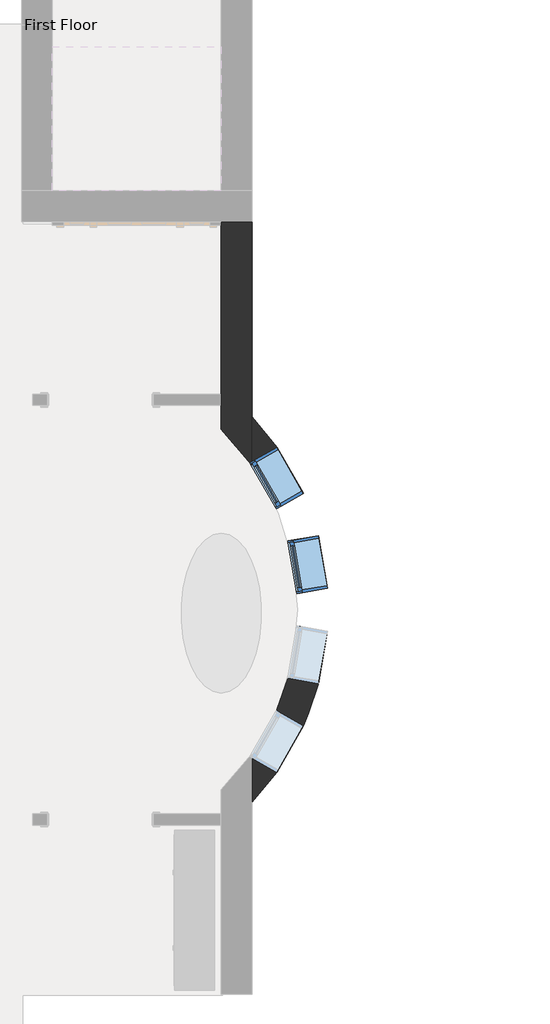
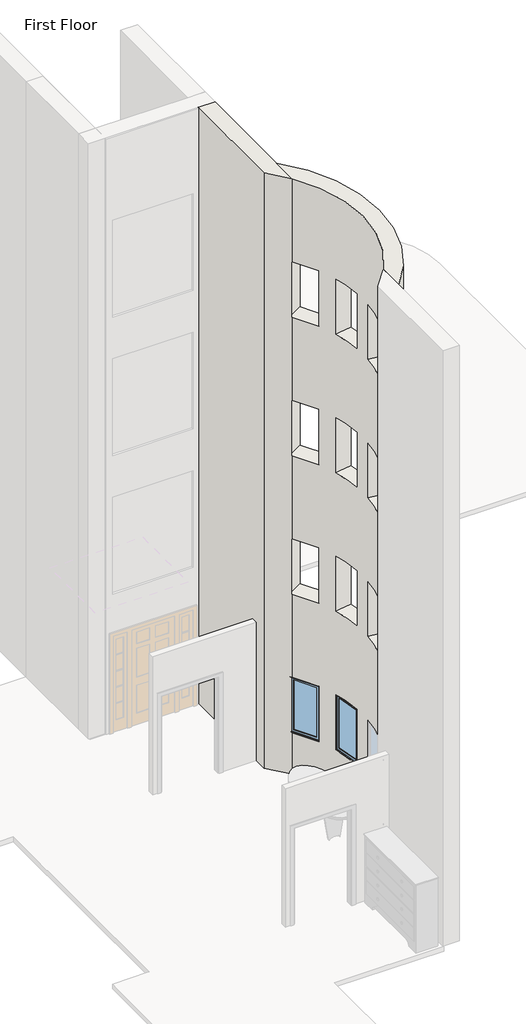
# One storey, part 9 of 21: 2 walls, 2 windows.
"""IFC4 building model written with IfcOpenShell, lengths in millimetres."""

from ifc_helpers import new_model, si_unit, frame, origin, place, context, project, spatial, polyline, circle_curve, transform, mapped, element, save
from ifc_brep_helpers import plane_surface, cylinder_surface, revolved_surface, advanced_brep
from components import window_ed80354a

model = new_model("IFC4")

# Units and contexts
model_context = context("Model", 3, world=origin())
ifc_project = project(units=[si_unit("LENGTHUNIT", "METRE", prefix="MILLI")], contexts=[model_context])

# Site, building, storey
site = spatial("IfcSite", under=ifc_project)
building = spatial("IfcBuilding", under=site)
storey = spatial("IfcBuildingStorey", under=building, Name="First Floor", Elevation=0.0)

# Walls
placement = place(None, origin())
element("IfcWall", 1, ObjectType="Exterior - Brick on Mtl. Stud", at=placement, inside=storey, context=model_context, shape_type="AdvancedBrep", body=[
    advanced_brep(
    [(-24001.3839563, -550.3808133, 0.0), (-24001.3839563, -591.6558133, 0.0), (-24001.3839563, -2525.2308133, 0.0), (-24001.3839563, -2652.2308133, 0.0), (-24001.3839563, -2927.0589656, 0.0), (-24001.3839563, -2927.0589656, 13106.4), (-24001.3839563, -591.6558133, 13106.4), (-24001.3839563, -550.3808133, 13106.4), (-23648.9589563, -3340.9526635, 0.0), (-23648.9589563, -2783.0580793, 0.0), (-23648.9589563, -550.3808133, 0.0), (-23648.9589563, -550.3808133, 13106.4), (-23648.9589563, -2783.0580793, 13106.4), (-23648.9589563, -3340.9526635, 13106.4), (-23648.9589563, -3340.9526635, 11277.6), (-23648.9589563, -3291.6644156, 11277.6), (-23648.9589563, -3291.6644156, 10058.4), (-23648.9589563, -3340.9526635, 10058.4), (-23648.9589563, -3340.9526635, 8229.6), (-23648.9589563, -3291.6644156, 8229.6), (-23648.9589563, -3291.6644156, 7010.4), (-23648.9589563, -3340.9526635, 7010.4), (-23648.9589563, -3340.9526635, 5181.6), (-23648.9589563, -3291.6644156, 5181.6), (-23648.9589563, -3291.6644156, 3962.4), (-23648.9589563, -3340.9526635, 3962.4), (-23648.9589563, -3340.9526635, 2133.6), (-23648.9589563, -3291.6644156, 2133.6), (-23648.9589563, -3291.6644156, 914.4), (-23648.9589563, -3340.9526635, 914.4), (-23654.515008, -3333.0411617, 914.4), (-23654.515008, -3333.0411617, 2133.6), (-23654.515008, -3333.0411617, 3962.4), (-23654.515008, -3333.0411617, 5181.6), (-23654.515008, -3333.0411617, 7010.4), (-23654.515008, -3333.0411617, 8229.6), (-23654.515008, -3333.0411617, 10058.4), (-23654.515008, -3333.0411617, 11277.6), (-23670.9721676, -3304.2451473, 914.4), (-23670.9721676, -3304.2451473, 2133.6), (-23670.9721676, -3304.2451473, 10058.4), (-23670.9721676, -3304.2451473, 11277.6), (-23670.9721676, -3304.2451473, 3962.4), (-23670.9721676, -3304.2451473, 5181.6), (-23670.9721676, -3304.2451473, 7010.4), (-23670.9721676, -3304.2451473, 8229.6)],
    [
        (0, 1),
        (1, 2),
        (2, 3),
        (3, 4),
        (4, 5),
        (5, 6),
        (6, 7),
        (7, 0),
        (8, 9),
        (9, 10),
        (10, 11),
        (11, 12),
        (12, 13),
        (13, 14),
        (14, 15),
        (15, 16),
        (16, 17),
        (17, 18),
        (18, 19),
        (19, 20),
        (20, 21),
        (21, 22),
        (22, 23),
        (23, 24),
        (24, 25),
        (25, 26),
        (26, 27),
        (27, 28),
        (28, 29),
        (29, 8),
        (0, 10),
        (8, 4, circle_curve(frame((-26001.8788413, -4987.4433133, 0.0), z_axis=(0.0, 0.0, 1.0), x_axis=(0.0, 1.0, 0.0)), 2871.7875)),
        (5, 13, circle_curve(frame((-26001.8788413, -4987.4433133, 13106.4), z_axis=(0.0, 0.0, -1.0), x_axis=(0.0, 1.0, 0.0)), 2871.7875)),
        (11, 7),
        (29, 30, circle_curve(frame((-26001.8788413, -4987.4433133, 914.4), z_axis=(0.0, 0.0, 1.0), x_axis=(0.0, 1.0, 0.0)), 2871.7875)),
        (30, 31),
        (31, 26, circle_curve(frame((-26001.8788413, -4987.4433133, 2133.6), z_axis=(0.0, 0.0, -1.0), x_axis=(0.0, 1.0, 0.0)), 2871.7875)),
        (25, 32, circle_curve(frame((-26001.8788413, -4987.4433133, 3962.4), z_axis=(0.0, 0.0, 1.0), x_axis=(0.0, 1.0, 0.0)), 2871.7875)),
        (32, 33),
        (33, 22, circle_curve(frame((-26001.8788413, -4987.4433133, 5181.6), z_axis=(0.0, 0.0, -1.0), x_axis=(0.0, 1.0, 0.0)), 2871.7875)),
        (21, 34, circle_curve(frame((-26001.8788413, -4987.4433133, 7010.4), z_axis=(0.0, 0.0, 1.0), x_axis=(0.0, 1.0, 0.0)), 2871.7875)),
        (34, 35),
        (35, 18, circle_curve(frame((-26001.8788413, -4987.4433133, 8229.6), z_axis=(0.0, 0.0, -1.0), x_axis=(0.0, 1.0, 0.0)), 2871.7875)),
        (17, 36, circle_curve(frame((-26001.8788413, -4987.4433133, 10058.4), z_axis=(0.0, 0.0, 1.0), x_axis=(0.0, 1.0, 0.0)), 2871.7875)),
        (36, 37),
        (37, 14, circle_curve(frame((-26001.8788413, -4987.4433133, 11277.6), z_axis=(0.0, 0.0, -1.0), x_axis=(0.0, 1.0, 0.0)), 2871.7875)),
        (38, 39),
        (39, 31),
        (30, 38),
        (28, 38),
        (27, 39),
        (40, 41),
        (41, 37),
        (36, 40),
        (16, 40),
        (15, 41),
        (42, 43),
        (43, 33),
        (32, 42),
        (24, 42),
        (23, 43),
        (44, 45),
        (45, 35),
        (34, 44),
        (20, 44),
        (19, 45),
    ],
    [
        plane_surface(frame((-24001.3839563, -415.4433133, 0.0), z_axis=(-1.0, 0.0, 0.0), x_axis=(0.0, -1.0, 0.0))),
        plane_surface(frame((-23648.9589563, -415.4433133, 0.0), z_axis=(1.0, 0.0, 0.0), x_axis=(0.0, 1.0, 0.0))),
        plane_surface(frame((-24001.3839563, -394.8058133, 0.0), z_axis=(0.0, 0.0, -1.0), x_axis=(1.0, 0.0, 0.0))),
        plane_surface(frame((-24001.3839563, -2853.8433133, 13106.4), z_axis=(0.0, 0.0, 1.0), x_axis=(1.0, 0.0, 0.0))),
        revolved_surface(polyline([(-26001.8788413, -2115.6558133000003, 0.0), (-26001.8788413, -2115.6558133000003, 13106.4)]), (-26001.8788413, -4987.4433133, 0.0), (0.0, 0.0, -1.0)),
        plane_surface(frame((-26111.1714563, -550.3808133, 0.0), z_axis=(0.0, 1.0, 0.0), x_axis=(1.0, 0.0, 0.0))),
        plane_surface(frame((-23368.4940834, -3833.5080013, 2133.6), z_axis=(0.8682133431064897, 0.4961910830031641, 0.0), x_axis=(0.0, 0.0, 1.0))),
        plane_surface(frame((-23063.8858198, -3659.4218675, 914.4), z_axis=(0.0, 0.0, 1.0), x_axis=(-0.8682133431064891, -0.49619108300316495, 0.0))),
        plane_surface(frame((-23366.363904, -3130.1590135, 914.4), z_axis=(0.49619108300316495, -0.8682133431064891, 0.0), x_axis=(-0.8682133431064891, -0.49619108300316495, 0.0))),
        plane_surface(frame((-23366.363904, -3130.1590135, 2133.6), z_axis=(0.0, 0.0, -1.0), x_axis=(-0.8682133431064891, -0.49619108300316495, 0.0))),
        plane_surface(frame((-23368.4940834, -3833.5080013, 11277.6), z_axis=(0.8682133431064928, 0.4961910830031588, 0.0), x_axis=(0.0, 0.0, 1.0))),
        plane_surface(frame((-23063.8858198, -3659.4218675, 10058.4), z_axis=(0.0, 0.0, 1.0), x_axis=(-0.8682133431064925, -0.4961910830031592, 0.0))),
        plane_surface(frame((-23366.363904, -3130.1590135, 10058.4), z_axis=(0.49619108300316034, -0.8682133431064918, 0.0), x_axis=(-0.8682133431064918, -0.49619108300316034, 0.0))),
        plane_surface(frame((-23366.363904, -3130.1590135, 11277.6), z_axis=(0.0, 0.0, -1.0), x_axis=(-0.8682133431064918, -0.49619108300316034, 0.0))),
        plane_surface(frame((-23368.4940834, -3833.5080013, 5181.6), z_axis=(0.8682133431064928, 0.4961910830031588, 0.0), x_axis=(0.0, 0.0, 1.0))),
        plane_surface(frame((-23063.8858198, -3659.4218675, 3962.4), z_axis=(0.0, 0.0, 1.0), x_axis=(-0.8682133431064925, -0.4961910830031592, 0.0))),
        plane_surface(frame((-23366.363904, -3130.1590135, 3962.4), z_axis=(0.49619108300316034, -0.8682133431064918, 0.0), x_axis=(-0.8682133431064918, -0.49619108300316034, 0.0))),
        plane_surface(frame((-23366.363904, -3130.1590135, 5181.6), z_axis=(0.0, 0.0, -1.0), x_axis=(-0.8682133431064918, -0.49619108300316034, 0.0))),
        plane_surface(frame((-23368.4940834, -3833.5080013, 8229.6), z_axis=(0.8682133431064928, 0.4961910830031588, 0.0), x_axis=(0.0, 0.0, 1.0))),
        plane_surface(frame((-23063.8858198, -3659.4218675, 7010.4), z_axis=(0.0, 0.0, 1.0), x_axis=(-0.8682133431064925, -0.4961910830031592, 0.0))),
        plane_surface(frame((-23366.363904, -3130.1590135, 7010.4), z_axis=(0.49619108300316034, -0.8682133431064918, 0.0), x_axis=(-0.8682133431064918, -0.49619108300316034, 0.0))),
        plane_surface(frame((-23366.363904, -3130.1590135, 8229.6), z_axis=(0.0, 0.0, -1.0), x_axis=(-0.8682133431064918, -0.49619108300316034, 0.0))),
    ],
    [
        (0, [[1, 2, 3, 4, 5, 6, 7, 8]]),
        (1, [[9, 10, 11, 12, 13, 14, 15, 16, 17, 18, 19, 20, 21, 22, 23, 24, 25, 26, 27, 28, 29, 30]]),
        (2, [[-4, -3, -2, -1, 31, -10, -9, 32]]),
        (3, [[-7, -6, 33, -13, -12, 34]]),
        (4, [[-32, -30, 35, 36, 37, -26, 38, 39, 40, -22, 41, 42, 43, -18, 44, 45, 46, -14, -33, -5]]),
        (5, [[-8, -34, -11, -31]]),
        (6, [[47, 48, -36, 49]]),
        (7, [[50, -49, -35, -29]]),
        (8, [[-47, -50, -28, 51]]),
        (9, [[-51, -27, -37, -48]]),
        (10, [[52, 53, -45, 54]]),
        (11, [[55, -54, -44, -17]]),
        (12, [[-52, -55, -16, 56]]),
        (13, [[-56, -15, -46, -53]]),
        (14, [[57, 58, -39, 59]]),
        (15, [[60, -59, -38, -25]]),
        (16, [[-57, -60, -24, 61]]),
        (17, [[-61, -23, -40, -58]]),
        (18, [[62, 63, -42, 64]]),
        (19, [[65, -64, -41, -21]]),
        (20, [[-62, -65, -20, 66]]),
        (21, [[-66, -19, -43, -63]]),
    ],
),
])
element("IfcWall", 2, ObjectType="Exterior - Brick on Mtl. Stud", at=placement, inside=storey, context=model_context, shape_type="AdvancedBrep", body=[
    advanced_brep(
    [(-23648.9589563, -3340.9526635, 13106.4), (-23648.9589563, -6633.9339631, 13106.4), (-23648.9589563, -7191.8285473, 13106.4), (-23648.9589563, -2783.0580793, 13106.4), (-23648.9589563, -6633.9339631, 0.0), (-23648.9589563, -3340.9526635, 0.0), (-23648.9589563, -2783.0580793, 0.0), (-23648.9589563, -7191.8285473, 0.0), (-23648.9589563, -3340.9526635, 11277.6), (-23371.3988057, -3835.168074, 11277.6), (-23371.3988057, -3835.168074, 10058.4), (-23648.9589563, -3340.9526635, 10058.4), (-23648.9589563, -3340.9526635, 8229.6), (-23371.3988057, -3835.168074, 8229.6), (-23371.3988057, -3835.168074, 7010.4), (-23648.9589563, -3340.9526635, 7010.4), (-23648.9589563, -3340.9526635, 5181.6), (-23371.3988057, -3835.168074, 5181.6), (-23371.3988057, -3835.168074, 3962.4), (-23648.9589563, -3340.9526635, 3962.4), (-23648.9589563, -3340.9526635, 2133.6), (-23371.3988057, -3835.168074, 2133.6), (-23371.3988057, -3835.168074, 914.4), (-23648.9589563, -3340.9526635, 914.4), (-23648.9589563, -6633.9339631, 914.4), (-23371.3988057, -6139.7185526, 914.4), (-23371.3988057, -6139.7185526, 2133.6), (-23648.9589563, -6633.9339631, 2133.6), (-23648.9589563, -6633.9339631, 3962.4), (-23371.3988057, -6139.7185526, 3962.4), (-23371.3988057, -6139.7185526, 5181.6), (-23648.9589563, -6633.9339631, 5181.6), (-23648.9589563, -6633.9339631, 7010.4), (-23371.3988057, -6139.7185526, 7010.4), (-23371.3988057, -6139.7185526, 8229.6), (-23648.9589563, -6633.9339631, 8229.6), (-23648.9589563, -6633.9339631, 10058.4), (-23371.3988057, -6139.7185526, 10058.4), (-23371.3988057, -6139.7185526, 11277.6), (-23648.9589563, -6633.9339631, 11277.6), (-23136.0115527, -4803.1388671, 8229.6), (-23136.0115527, -4803.1388671, 7010.4), (-23239.4803586, -4202.3840368, 7010.4), (-23239.4803586, -4202.3840368, 8229.6), (-23136.0115527, -5171.7477595, 8229.6), (-23239.4803586, -5772.5025899, 8229.6), (-23239.4803586, -5772.5025899, 7010.4), (-23136.0115527, -5171.7477595, 7010.4), (-23136.0115527, -4803.1388671, 5181.6), (-23136.0115527, -4803.1388671, 3962.4), (-23239.4803586, -4202.3840368, 3962.4), (-23239.4803586, -4202.3840368, 5181.6), (-23136.0115527, -5171.7477595, 5181.6), (-23239.4803586, -5772.5025899, 5181.6), (-23239.4803586, -5772.5025899, 3962.4), (-23136.0115527, -5171.7477595, 3962.4), (-23136.0115527, -4803.1388671, 11277.6), (-23136.0115527, -4803.1388671, 10058.4), (-23239.4803586, -4202.3840368, 10058.4), (-23239.4803586, -4202.3840368, 11277.6), (-23136.0115527, -5171.7477595, 11277.6), (-23239.4803586, -5772.5025899, 11277.6), (-23239.4803586, -5772.5025899, 10058.4), (-23136.0115527, -5171.7477595, 10058.4), (-23136.0115527, -4803.1388671, 2133.6), (-23136.0115527, -4803.1388671, 914.4), (-23239.4803586, -4202.3840368, 914.4), (-23239.4803586, -4202.3840368, 2133.6), (-23136.0115527, -5171.7477595, 2133.6), (-23239.4803586, -5772.5025899, 2133.6), (-23239.4803586, -5772.5025899, 914.4), (-23136.0115527, -5171.7477595, 914.4), (-23063.8719855, -6315.4726656, 2133.6), (-23063.8719855, -6315.4726656, 914.4), (-23366.3500697, -6844.7355195, 914.4), (-23366.3500697, -6844.7355195, 2133.6), (-23063.8719855, -3659.4139611, 914.4), (-23063.8719855, -3659.4139611, 2133.6), (-23366.3500697, -3130.1511071, 2133.6), (-23366.3500697, -3130.1511071, 914.4), (-23063.8719855, -6315.4726656, 11277.6), (-23063.8719855, -6315.4726656, 10058.4), (-23366.3500697, -6844.7355195, 10058.4), (-23366.3500697, -6844.7355195, 11277.6), (-23063.8719855, -3659.4139611, 10058.4), (-23063.8719855, -3659.4139611, 11277.6), (-23366.3500697, -3130.1511071, 11277.6), (-23366.3500697, -3130.1511071, 10058.4), (-23063.8719855, -6315.4726656, 5181.6), (-23063.8719855, -6315.4726656, 3962.4), (-23366.3500697, -6844.7355195, 3962.4), (-23366.3500697, -6844.7355195, 5181.6), (-23063.8719855, -3659.4139611, 3962.4), (-23063.8719855, -3659.4139611, 5181.6), (-23366.3500697, -3130.1511071, 5181.6), (-23366.3500697, -3130.1511071, 3962.4), (-23063.8719855, -6315.4726656, 8229.6), (-23063.8719855, -6315.4726656, 7010.4), (-23366.3500697, -6844.7355195, 7010.4), (-23366.3500697, -6844.7355195, 8229.6), (-23063.8719855, -3659.4139611, 7010.4), (-23063.8719855, -3659.4139611, 8229.6), (-23366.3500697, -3130.1511071, 8229.6), (-23366.3500697, -3130.1511071, 7010.4), (-22786.9445035, -4743.0185836, 8229.6), (-22890.4133094, -4142.2637532, 8229.6), (-22890.4133094, -4142.2637532, 7010.4), (-22786.9445035, -4743.0185836, 7010.4), (-22786.9445035, -5231.8680431, 8229.6), (-22786.9445035, -5231.8680431, 7010.4), (-22890.4133094, -5832.6228734, 7010.4), (-22890.4133094, -5832.6228734, 8229.6), (-22786.9445035, -4743.0185836, 5181.6), (-22890.4133094, -4142.2637532, 5181.6), (-22890.4133094, -4142.2637532, 3962.4), (-22786.9445035, -4743.0185836, 3962.4), (-22786.9445035, -5231.8680431, 5181.6), (-22786.9445035, -5231.8680431, 3962.4), (-22890.4133094, -5832.6228734, 3962.4), (-22890.4133094, -5832.6228734, 5181.6), (-22786.9445035, -4743.0185836, 11277.6), (-22890.4133094, -4142.2637532, 11277.6), (-22890.4133094, -4142.2637532, 10058.4), (-22786.9445035, -4743.0185836, 10058.4), (-22786.9445035, -5231.8680431, 11277.6), (-22786.9445035, -5231.8680431, 10058.4), (-22890.4133094, -5832.6228734, 10058.4), (-22890.4133094, -5832.6228734, 11277.6), (-22786.9445035, -4743.0185836, 2133.6), (-22890.4133094, -4142.2637532, 2133.6), (-22890.4133094, -4142.2637532, 914.4), (-22786.9445035, -4743.0185836, 914.4), (-22786.9445035, -5231.8680431, 2133.6), (-22786.9445035, -5231.8680431, 914.4), (-22890.4133094, -5832.6228734, 914.4), (-22890.4133094, -5832.6228734, 2133.6), (-23648.9589563, -3291.6644156, 914.4), (-23648.9589563, -3291.6644156, 2133.6), (-23648.9589563, -3291.6644156, 3962.4), (-23648.9589563, -3291.6644156, 5181.6), (-23648.9589563, -3291.6644156, 7010.4), (-23648.9589563, -3291.6644156, 8229.6), (-23648.9589563, -3291.6644156, 10058.4), (-23648.9589563, -3291.6644156, 11277.6), (-23648.9589563, -6683.222211, 11277.6), (-23648.9589563, -6683.222211, 10058.4), (-23648.9589563, -6683.222211, 8229.6), (-23648.9589563, -6683.222211, 7010.4), (-23648.9589563, -6683.222211, 5181.6), (-23648.9589563, -6683.222211, 3962.4), (-23648.9589563, -6683.222211, 2133.6), (-23648.9589563, -6683.222211, 914.4)],
    [
        (0, 1, circle_curve(frame((-26001.8788413, -4987.4433133, 13106.4), z_axis=(0.0, 0.0, -1.0), x_axis=(0.0, 1.0, 0.0)), 2871.7875)),
        (1, 2),
        (2, 3, circle_curve(frame((-26001.8788413, -4987.4433133, 13106.4), z_axis=(0.0, 0.0, 1.0), x_axis=(0.0, 1.0, 0.0)), 3224.2125)),
        (3, 0),
        (4, 5, circle_curve(frame((-26001.8788413, -4987.4433133, 0.0), z_axis=(0.0, 0.0, 1.0), x_axis=(0.0, 1.0, 0.0)), 2871.7875)),
        (5, 6),
        (6, 7, circle_curve(frame((-26001.8788413, -4987.4433133, 0.0), z_axis=(0.0, 0.0, -1.0), x_axis=(0.0, 1.0, 0.0)), 3224.2125)),
        (7, 4),
        (0, 8),
        (8, 9, circle_curve(frame((-26001.8788413, -4987.4433133, 11277.6), z_axis=(0.0, 0.0, -1.0), x_axis=(0.0, 1.0, 0.0)), 2871.7875)),
        (9, 10),
        (10, 11, circle_curve(frame((-26001.8788413, -4987.4433133, 10058.4), z_axis=(0.0, 0.0, 1.0), x_axis=(0.0, 1.0, 0.0)), 2871.7875)),
        (11, 12),
        (12, 13, circle_curve(frame((-26001.8788413, -4987.4433133, 8229.6), z_axis=(0.0, 0.0, -1.0), x_axis=(0.0, 1.0, 0.0)), 2871.7875)),
        (13, 14),
        (14, 15, circle_curve(frame((-26001.8788413, -4987.4433133, 7010.4), z_axis=(0.0, 0.0, 1.0), x_axis=(0.0, 1.0, 0.0)), 2871.7875)),
        (15, 16),
        (16, 17, circle_curve(frame((-26001.8788413, -4987.4433133, 5181.6), z_axis=(0.0, 0.0, -1.0), x_axis=(0.0, 1.0, 0.0)), 2871.7875)),
        (17, 18),
        (18, 19, circle_curve(frame((-26001.8788413, -4987.4433133, 3962.4), z_axis=(0.0, 0.0, 1.0), x_axis=(0.0, 1.0, 0.0)), 2871.7875)),
        (19, 20),
        (20, 21, circle_curve(frame((-26001.8788413, -4987.4433133, 2133.6), z_axis=(0.0, 0.0, -1.0), x_axis=(0.0, 1.0, 0.0)), 2871.7875)),
        (21, 22),
        (22, 23, circle_curve(frame((-26001.8788413, -4987.4433133, 914.4), z_axis=(0.0, 0.0, 1.0), x_axis=(0.0, 1.0, 0.0)), 2871.7875)),
        (23, 5),
        (4, 24),
        (24, 25, circle_curve(frame((-26001.8788413, -4987.4433133, 914.4), z_axis=(0.0, 0.0, 1.0), x_axis=(0.0, 1.0, 0.0)), 2871.7875)),
        (25, 26),
        (26, 27, circle_curve(frame((-26001.8788413, -4987.4433133, 2133.6), z_axis=(0.0, 0.0, -1.0), x_axis=(0.0, 1.0, 0.0)), 2871.7875)),
        (27, 28),
        (28, 29, circle_curve(frame((-26001.8788413, -4987.4433133, 3962.4), z_axis=(0.0, 0.0, 1.0), x_axis=(0.0, 1.0, 0.0)), 2871.7875)),
        (29, 30),
        (30, 31, circle_curve(frame((-26001.8788413, -4987.4433133, 5181.6), z_axis=(0.0, 0.0, -1.0), x_axis=(0.0, 1.0, 0.0)), 2871.7875)),
        (31, 32),
        (32, 33, circle_curve(frame((-26001.8788413, -4987.4433133, 7010.4), z_axis=(0.0, 0.0, 1.0), x_axis=(0.0, 1.0, 0.0)), 2871.7875)),
        (33, 34),
        (34, 35, circle_curve(frame((-26001.8788413, -4987.4433133, 8229.6), z_axis=(0.0, 0.0, -1.0), x_axis=(0.0, 1.0, 0.0)), 2871.7875)),
        (35, 36),
        (36, 37, circle_curve(frame((-26001.8788413, -4987.4433133, 10058.4), z_axis=(0.0, 0.0, 1.0), x_axis=(0.0, 1.0, 0.0)), 2871.7875)),
        (37, 38),
        (38, 39, circle_curve(frame((-26001.8788413, -4987.4433133, 11277.6), z_axis=(0.0, 0.0, -1.0), x_axis=(0.0, 1.0, 0.0)), 2871.7875)),
        (39, 1),
        (40, 41),
        (41, 42, circle_curve(frame((-26001.8788413, -4987.4433133, 7010.4), z_axis=(0.0, 0.0, 1.0), x_axis=(0.0, 1.0, 0.0)), 2871.7875)),
        (42, 43),
        (43, 40, circle_curve(frame((-26001.8788413, -4987.4433133, 8229.6), z_axis=(0.0, 0.0, -1.0), x_axis=(0.0, 1.0, 0.0)), 2871.7875)),
        (44, 45, circle_curve(frame((-26001.8788413, -4987.4433133, 8229.6), z_axis=(0.0, 0.0, -1.0), x_axis=(0.0, 1.0, 0.0)), 2871.7875)),
        (45, 46),
        (46, 47, circle_curve(frame((-26001.8788413, -4987.4433133, 7010.4), z_axis=(0.0, 0.0, 1.0), x_axis=(0.0, 1.0, 0.0)), 2871.7875)),
        (47, 44),
        (48, 49),
        (49, 50, circle_curve(frame((-26001.8788413, -4987.4433133, 3962.4), z_axis=(0.0, 0.0, 1.0), x_axis=(0.0, 1.0, 0.0)), 2871.7875)),
        (50, 51),
        (51, 48, circle_curve(frame((-26001.8788413, -4987.4433133, 5181.6), z_axis=(0.0, 0.0, -1.0), x_axis=(0.0, 1.0, 0.0)), 2871.7875)),
        (52, 53, circle_curve(frame((-26001.8788413, -4987.4433133, 5181.6), z_axis=(0.0, 0.0, -1.0), x_axis=(0.0, 1.0, 0.0)), 2871.7875)),
        (53, 54),
        (54, 55, circle_curve(frame((-26001.8788413, -4987.4433133, 3962.4), z_axis=(0.0, 0.0, 1.0), x_axis=(0.0, 1.0, 0.0)), 2871.7875)),
        (55, 52),
        (56, 57),
        (57, 58, circle_curve(frame((-26001.8788413, -4987.4433133, 10058.4), z_axis=(0.0, 0.0, 1.0), x_axis=(0.0, 1.0, 0.0)), 2871.7875)),
        (58, 59),
        (59, 56, circle_curve(frame((-26001.8788413, -4987.4433133, 11277.6), z_axis=(0.0, 0.0, -1.0), x_axis=(0.0, 1.0, 0.0)), 2871.7875)),
        (60, 61, circle_curve(frame((-26001.8788413, -4987.4433133, 11277.6), z_axis=(0.0, 0.0, -1.0), x_axis=(0.0, 1.0, 0.0)), 2871.7875)),
        (61, 62),
        (62, 63, circle_curve(frame((-26001.8788413, -4987.4433133, 10058.4), z_axis=(0.0, 0.0, 1.0), x_axis=(0.0, 1.0, 0.0)), 2871.7875)),
        (63, 60),
        (64, 65),
        (65, 66, circle_curve(frame((-26001.8788413, -4987.4433133, 914.4), z_axis=(0.0, 0.0, 1.0), x_axis=(0.0, 1.0, 0.0)), 2871.7875)),
        (66, 67),
        (67, 64, circle_curve(frame((-26001.8788413, -4987.4433133, 2133.6), z_axis=(0.0, 0.0, -1.0), x_axis=(0.0, 1.0, 0.0)), 2871.7875)),
        (68, 69, circle_curve(frame((-26001.8788413, -4987.4433133, 2133.6), z_axis=(0.0, 0.0, -1.0), x_axis=(0.0, 1.0, 0.0)), 2871.7875)),
        (69, 70),
        (70, 71, circle_curve(frame((-26001.8788413, -4987.4433133, 914.4), z_axis=(0.0, 0.0, 1.0), x_axis=(0.0, 1.0, 0.0)), 2871.7875)),
        (71, 68),
        (2, 7),
        (6, 3),
        (72, 73),
        (73, 74, circle_curve(frame((-26001.8788413, -4987.4433133, 914.4), z_axis=(0.0, 0.0, -1.0), x_axis=(0.0, 1.0, 0.0)), 3224.2125)),
        (74, 75),
        (75, 72, circle_curve(frame((-26001.8788413, -4987.4433133, 2133.6), z_axis=(0.0, 0.0, 1.0), x_axis=(0.0, 1.0, 0.0)), 3224.2125)),
        (76, 77),
        (77, 78, circle_curve(frame((-26001.8788413, -4987.4433133, 2133.6), z_axis=(0.0, 0.0, 1.0), x_axis=(0.0, 1.0, 0.0)), 3224.2125)),
        (78, 79),
        (79, 76, circle_curve(frame((-26001.8788413, -4987.4433133, 914.4), z_axis=(0.0, 0.0, -1.0), x_axis=(0.0, 1.0, 0.0)), 3224.2125)),
        (80, 81),
        (81, 82, circle_curve(frame((-26001.8788413, -4987.4433133, 10058.4), z_axis=(0.0, 0.0, -1.0), x_axis=(0.0, 1.0, 0.0)), 3224.2125)),
        (82, 83),
        (83, 80, circle_curve(frame((-26001.8788413, -4987.4433133, 11277.6), z_axis=(0.0, 0.0, 1.0), x_axis=(0.0, 1.0, 0.0)), 3224.2125)),
        (84, 85),
        (85, 86, circle_curve(frame((-26001.8788413, -4987.4433133, 11277.6), z_axis=(0.0, 0.0, 1.0), x_axis=(0.0, 1.0, 0.0)), 3224.2125)),
        (86, 87),
        (87, 84, circle_curve(frame((-26001.8788413, -4987.4433133, 10058.4), z_axis=(0.0, 0.0, -1.0), x_axis=(0.0, 1.0, 0.0)), 3224.2125)),
        (88, 89),
        (89, 90, circle_curve(frame((-26001.8788413, -4987.4433133, 3962.4), z_axis=(0.0, 0.0, -1.0), x_axis=(0.0, 1.0, 0.0)), 3224.2125)),
        (90, 91),
        (91, 88, circle_curve(frame((-26001.8788413, -4987.4433133, 5181.6), z_axis=(0.0, 0.0, 1.0), x_axis=(0.0, 1.0, 0.0)), 3224.2125)),
        (92, 93),
        (93, 94, circle_curve(frame((-26001.8788413, -4987.4433133, 5181.6), z_axis=(0.0, 0.0, 1.0), x_axis=(0.0, 1.0, 0.0)), 3224.2125)),
        (94, 95),
        (95, 92, circle_curve(frame((-26001.8788413, -4987.4433133, 3962.4), z_axis=(0.0, 0.0, -1.0), x_axis=(0.0, 1.0, 0.0)), 3224.2125)),
        (96, 97),
        (97, 98, circle_curve(frame((-26001.8788413, -4987.4433133, 7010.4), z_axis=(0.0, 0.0, -1.0), x_axis=(0.0, 1.0, 0.0)), 3224.2125)),
        (98, 99),
        (99, 96, circle_curve(frame((-26001.8788413, -4987.4433133, 8229.6), z_axis=(0.0, 0.0, 1.0), x_axis=(0.0, 1.0, 0.0)), 3224.2125)),
        (100, 101),
        (101, 102, circle_curve(frame((-26001.8788413, -4987.4433133, 8229.6), z_axis=(0.0, 0.0, 1.0), x_axis=(0.0, 1.0, 0.0)), 3224.2125)),
        (102, 103),
        (103, 100, circle_curve(frame((-26001.8788413, -4987.4433133, 7010.4), z_axis=(0.0, 0.0, -1.0), x_axis=(0.0, 1.0, 0.0)), 3224.2125)),
        (104, 105, circle_curve(frame((-26001.8788413, -4987.4433133, 8229.6), z_axis=(0.0, 0.0, 1.0), x_axis=(0.0, 1.0, 0.0)), 3224.2125)),
        (105, 106),
        (106, 107, circle_curve(frame((-26001.8788413, -4987.4433133, 7010.4), z_axis=(0.0, 0.0, -1.0), x_axis=(0.0, 1.0, 0.0)), 3224.2125)),
        (107, 104),
        (108, 109),
        (109, 110, circle_curve(frame((-26001.8788413, -4987.4433133, 7010.4), z_axis=(0.0, 0.0, -1.0), x_axis=(0.0, 1.0, 0.0)), 3224.2125)),
        (110, 111),
        (111, 108, circle_curve(frame((-26001.8788413, -4987.4433133, 8229.6), z_axis=(0.0, 0.0, 1.0), x_axis=(0.0, 1.0, 0.0)), 3224.2125)),
        (112, 113, circle_curve(frame((-26001.8788413, -4987.4433133, 5181.6), z_axis=(0.0, 0.0, 1.0), x_axis=(0.0, 1.0, 0.0)), 3224.2125)),
        (113, 114),
        (114, 115, circle_curve(frame((-26001.8788413, -4987.4433133, 3962.4), z_axis=(0.0, 0.0, -1.0), x_axis=(0.0, 1.0, 0.0)), 3224.2125)),
        (115, 112),
        (116, 117),
        (117, 118, circle_curve(frame((-26001.8788413, -4987.4433133, 3962.4), z_axis=(0.0, 0.0, -1.0), x_axis=(0.0, 1.0, 0.0)), 3224.2125)),
        (118, 119),
        (119, 116, circle_curve(frame((-26001.8788413, -4987.4433133, 5181.6), z_axis=(0.0, 0.0, 1.0), x_axis=(0.0, 1.0, 0.0)), 3224.2125)),
        (120, 121, circle_curve(frame((-26001.8788413, -4987.4433133, 11277.6), z_axis=(0.0, 0.0, 1.0), x_axis=(0.0, 1.0, 0.0)), 3224.2125)),
        (121, 122),
        (122, 123, circle_curve(frame((-26001.8788413, -4987.4433133, 10058.4), z_axis=(0.0, 0.0, -1.0), x_axis=(0.0, 1.0, 0.0)), 3224.2125)),
        (123, 120),
        (124, 125),
        (125, 126, circle_curve(frame((-26001.8788413, -4987.4433133, 10058.4), z_axis=(0.0, 0.0, -1.0), x_axis=(0.0, 1.0, 0.0)), 3224.2125)),
        (126, 127),
        (127, 124, circle_curve(frame((-26001.8788413, -4987.4433133, 11277.6), z_axis=(0.0, 0.0, 1.0), x_axis=(0.0, 1.0, 0.0)), 3224.2125)),
        (128, 129, circle_curve(frame((-26001.8788413, -4987.4433133, 2133.6), z_axis=(0.0, 0.0, 1.0), x_axis=(0.0, 1.0, 0.0)), 3224.2125)),
        (129, 130),
        (130, 131, circle_curve(frame((-26001.8788413, -4987.4433133, 914.4), z_axis=(0.0, 0.0, -1.0), x_axis=(0.0, 1.0, 0.0)), 3224.2125)),
        (131, 128),
        (132, 133),
        (133, 134, circle_curve(frame((-26001.8788413, -4987.4433133, 914.4), z_axis=(0.0, 0.0, -1.0), x_axis=(0.0, 1.0, 0.0)), 3224.2125)),
        (134, 135),
        (135, 132, circle_curve(frame((-26001.8788413, -4987.4433133, 2133.6), z_axis=(0.0, 0.0, 1.0), x_axis=(0.0, 1.0, 0.0)), 3224.2125)),
        (23, 136),
        (136, 137),
        (137, 20),
        (19, 138),
        (138, 139),
        (139, 16),
        (15, 140),
        (140, 141),
        (141, 12),
        (11, 142),
        (142, 143),
        (143, 8),
        (39, 144),
        (144, 145),
        (145, 36),
        (35, 146),
        (146, 147),
        (147, 32),
        (31, 148),
        (148, 149),
        (149, 28),
        (27, 150),
        (150, 151),
        (151, 24),
        (72, 26),
        (25, 73),
        (151, 74),
        (150, 75),
        (21, 77),
        (76, 22),
        (79, 136),
        (78, 137),
        (80, 38),
        (37, 81),
        (145, 82),
        (144, 83),
        (9, 85),
        (84, 10),
        (87, 142),
        (86, 143),
        (88, 30),
        (29, 89),
        (149, 90),
        (148, 91),
        (17, 93),
        (92, 18),
        (95, 138),
        (94, 139),
        (96, 34),
        (33, 97),
        (147, 98),
        (146, 99),
        (13, 101),
        (100, 14),
        (103, 140),
        (102, 141),
        (40, 104),
        (107, 41),
        (106, 42),
        (105, 43),
        (108, 44),
        (47, 109),
        (46, 110),
        (45, 111),
        (48, 112),
        (115, 49),
        (114, 50),
        (113, 51),
        (116, 52),
        (55, 117),
        (54, 118),
        (53, 119),
        (56, 120),
        (123, 57),
        (122, 58),
        (121, 59),
        (124, 60),
        (63, 125),
        (62, 126),
        (61, 127),
        (64, 128),
        (131, 65),
        (130, 66),
        (129, 67),
        (132, 68),
        (71, 133),
        (70, 134),
        (69, 135),
    ],
    [
        plane_surface(frame((-26001.8788413, -2115.6558133, 13106.4), z_axis=(0.0, 0.0, 1.0), x_axis=(1.0, 0.0, 0.0))),
        plane_surface(frame((-26001.8788413, -2115.6558133, 0.0), z_axis=(0.0, 0.0, -1.0), x_axis=(-1.0, 0.0, 0.0))),
        revolved_surface(polyline([(-26001.8788413, -2115.6558133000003, 0.0), (-26001.8788413, -2115.6558133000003, 13106.4)]), (-26001.8788413, -4987.4433133, 0.0), (0.0, 0.0, -1.0)),
        cylinder_surface(frame((-26001.8788413, -4987.4433133, 0.0), z_axis=(0.0, 0.0, 1.0), x_axis=(0.0, 1.0, 0.0)), 3224.2125),
        plane_surface(frame((-23648.9589563, -415.4433133, 0.0), z_axis=(-1.0, 0.0, 0.0), x_axis=(0.0, 1.0, 0.0))),
        plane_surface(frame((-23648.9589563, -9559.4433133, 0.0), z_axis=(-1.0, 0.0, 0.0), x_axis=(0.0, 1.0, 0.0))),
        plane_surface(frame((-24388.5758531, -5558.3934846, 2133.6), z_axis=(-0.496191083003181, -0.8682133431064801, 0.0), x_axis=(0.8682133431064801, -0.496191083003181, 0.0))),
        plane_surface(frame((-24388.5758531, -5558.3934846, 914.4), z_axis=(0.0, 0.0, 1.0000000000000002), x_axis=(0.8682133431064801, -0.496191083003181, 0.0))),
        plane_surface(frame((-24691.0539373, -6087.6563385, 914.4), z_axis=(0.496191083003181, 0.8682133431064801, 0.0), x_axis=(0.8682133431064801, -0.496191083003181, 0.0))),
        plane_surface(frame((-24691.0539373, -6087.6563385, 2133.6), z_axis=(0.0, 0.0, -1.0000000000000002), x_axis=(0.8682133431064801, -0.496191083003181, 0.0))),
        plane_surface(frame((-21742.2615833, -2904.1027211, 2133.6), z_axis=(-0.49619108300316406, 0.8682133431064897, 0.0), x_axis=(-0.8682133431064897, -0.49619108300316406, 0.0))),
        plane_surface(frame((-21742.2615833, -2904.1027211, 914.4), z_axis=(0.0, 0.0, 1.0), x_axis=(-0.8682133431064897, -0.49619108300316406, 0.0))),
        plane_surface(frame((-22044.7396675, -2374.8398671, 914.4), z_axis=(0.4961910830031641, -0.8682133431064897, 0.0), x_axis=(-0.8682133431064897, -0.4961910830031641, 0.0))),
        plane_surface(frame((-22044.7396675, -2374.8398671, 2133.6), z_axis=(0.0, 0.0, -1.0), x_axis=(-0.8682133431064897, -0.4961910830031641, 0.0))),
        plane_surface(frame((-24388.5758531, -5558.3934846, 11277.6), z_axis=(-0.4961910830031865, -0.8682133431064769, 0.0), x_axis=(0.8682133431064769, -0.4961910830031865, 0.0))),
        plane_surface(frame((-24388.5758531, -5558.3934846, 10058.4), z_axis=(0.0, 0.0, 1.0000000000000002), x_axis=(0.8682133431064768, -0.49619108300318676, 0.0))),
        plane_surface(frame((-24691.0539373, -6087.6563385, 10058.4), z_axis=(0.4961910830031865, 0.8682133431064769, 0.0), x_axis=(0.8682133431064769, -0.4961910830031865, 0.0))),
        plane_surface(frame((-24691.0539373, -6087.6563385, 11277.6), z_axis=(0.0, 0.0, -1.0), x_axis=(0.8682133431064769, -0.4961910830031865, 0.0))),
        plane_surface(frame((-21742.2615833, -2904.1027211, 11277.6), z_axis=(-0.4961910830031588, 0.8682133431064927, 0.0), x_axis=(-0.8682133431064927, -0.4961910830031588, 0.0))),
        plane_surface(frame((-21742.2615833, -2904.1027211, 10058.4), z_axis=(0.0, 0.0, 1.0), x_axis=(-0.8682133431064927, -0.4961910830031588, 0.0))),
        plane_surface(frame((-22044.7396675, -2374.8398671, 10058.4), z_axis=(0.4961910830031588, -0.8682133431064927, 0.0), x_axis=(-0.8682133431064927, -0.4961910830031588, 0.0))),
        plane_surface(frame((-22044.7396675, -2374.8398671, 11277.6), z_axis=(0.0, 0.0, -1.0), x_axis=(-0.8682133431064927, -0.4961910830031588, 0.0))),
        plane_surface(frame((-24388.5758531, -5558.3934846, 5181.6), z_axis=(-0.4961910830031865, -0.8682133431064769, 0.0), x_axis=(0.8682133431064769, -0.4961910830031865, 0.0))),
        plane_surface(frame((-24388.5758531, -5558.3934846, 3962.4), z_axis=(0.0, 0.0, 1.0000000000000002), x_axis=(0.8682133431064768, -0.49619108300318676, 0.0))),
        plane_surface(frame((-24691.0539373, -6087.6563385, 3962.4), z_axis=(0.4961910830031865, 0.8682133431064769, 0.0), x_axis=(0.8682133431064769, -0.4961910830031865, 0.0))),
        plane_surface(frame((-24691.0539373, -6087.6563385, 5181.6), z_axis=(0.0, 0.0, -1.0), x_axis=(0.8682133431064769, -0.4961910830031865, 0.0))),
        plane_surface(frame((-21742.2615833, -2904.1027211, 5181.6), z_axis=(-0.4961910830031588, 0.8682133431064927, 0.0), x_axis=(-0.8682133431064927, -0.4961910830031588, 0.0))),
        plane_surface(frame((-21742.2615833, -2904.1027211, 3962.4), z_axis=(0.0, 0.0, 1.0), x_axis=(-0.8682133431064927, -0.4961910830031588, 0.0))),
        plane_surface(frame((-22044.7396675, -2374.8398671, 3962.4), z_axis=(0.4961910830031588, -0.8682133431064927, 0.0), x_axis=(-0.8682133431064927, -0.4961910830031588, 0.0))),
        plane_surface(frame((-22044.7396675, -2374.8398671, 5181.6), z_axis=(0.0, 0.0, -1.0), x_axis=(-0.8682133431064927, -0.4961910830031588, 0.0))),
        plane_surface(frame((-24388.5758531, -5558.3934846, 8229.6), z_axis=(-0.4961910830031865, -0.8682133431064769, 0.0), x_axis=(0.8682133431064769, -0.4961910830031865, 0.0))),
        plane_surface(frame((-24388.5758531, -5558.3934846, 7010.4), z_axis=(0.0, 0.0, 1.0000000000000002), x_axis=(0.8682133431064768, -0.49619108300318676, 0.0))),
        plane_surface(frame((-24691.0539373, -6087.6563385, 7010.4), z_axis=(0.4961910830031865, 0.8682133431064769, 0.0), x_axis=(0.8682133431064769, -0.4961910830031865, 0.0))),
        plane_surface(frame((-24691.0539373, -6087.6563385, 8229.6), z_axis=(0.0, 0.0, -1.0), x_axis=(0.8682133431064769, -0.4961910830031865, 0.0))),
        plane_surface(frame((-21742.2615833, -2904.1027211, 8229.6), z_axis=(-0.4961910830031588, 0.8682133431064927, 0.0), x_axis=(-0.8682133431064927, -0.4961910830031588, 0.0))),
        plane_surface(frame((-21742.2615833, -2904.1027211, 7010.4), z_axis=(0.0, 0.0, 1.0), x_axis=(-0.8682133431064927, -0.4961910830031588, 0.0))),
        plane_surface(frame((-22044.7396675, -2374.8398671, 7010.4), z_axis=(0.4961910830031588, -0.8682133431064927, 0.0), x_axis=(-0.8682133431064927, -0.4961910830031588, 0.0))),
        plane_surface(frame((-22044.7396675, -2374.8398671, 8229.6), z_axis=(0.0, 0.0, -1.0), x_axis=(-0.8682133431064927, -0.4961910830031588, 0.0))),
        plane_surface(frame((-23136.0115527, -4803.1388671, 8229.6), z_axis=(-0.16973229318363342, 0.985490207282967, 0.0), x_axis=(0.985490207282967, 0.16973229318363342, 0.0))),
        plane_surface(frame((-23136.0115527, -4803.1388671, 7010.4), z_axis=(0.0, 0.0, 1.0), x_axis=(0.9854902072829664, 0.1697322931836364, 0.0))),
        plane_surface(frame((-23239.4803586, -4202.3840368, 7010.4), z_axis=(0.1697322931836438, -0.9854902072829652, 0.0), x_axis=(0.9854902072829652, 0.1697322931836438, 0.0))),
        plane_surface(frame((-23239.4803586, -4202.3840368, 8229.6), z_axis=(0.0, 0.0, -1.0000000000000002), x_axis=(0.9854902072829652, 0.1697322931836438, 0.0))),
        plane_surface(frame((-22786.9445035, -5231.8680431, 8229.6), z_axis=(-0.16973229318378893, -0.9854902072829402, 0.0), x_axis=(-0.9854902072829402, 0.16973229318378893, 0.0))),
        plane_surface(frame((-22786.9445035, -5231.8680431, 7010.4), z_axis=(0.0, 0.0, 1.0), x_axis=(-0.9854902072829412, 0.169732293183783, 0.0))),
        plane_surface(frame((-22890.4133094, -5832.6228734, 7010.4), z_axis=(0.16973229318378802, 0.9854902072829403, 0.0), x_axis=(-0.9854902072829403, 0.16973229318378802, 0.0))),
        plane_surface(frame((-22890.4133094, -5832.6228734, 8229.6), z_axis=(0.0, 0.0, -1.0000000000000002), x_axis=(-0.9854902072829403, 0.16973229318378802, 0.0))),
        plane_surface(frame((-23136.0115527, -4803.1388671, 5181.6), z_axis=(-0.16973229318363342, 0.985490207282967, 0.0), x_axis=(0.985490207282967, 0.16973229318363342, 0.0))),
        plane_surface(frame((-23136.0115527, -4803.1388671, 3962.4), z_axis=(0.0, 0.0, 1.0), x_axis=(0.9854902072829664, 0.1697322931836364, 0.0))),
        plane_surface(frame((-23239.4803586, -4202.3840368, 3962.4), z_axis=(0.1697322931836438, -0.9854902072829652, 0.0), x_axis=(0.9854902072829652, 0.1697322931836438, 0.0))),
        plane_surface(frame((-23239.4803586, -4202.3840368, 5181.6), z_axis=(0.0, 0.0, -1.0000000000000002), x_axis=(0.9854902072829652, 0.1697322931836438, 0.0))),
        plane_surface(frame((-22786.9445035, -5231.8680431, 5181.6), z_axis=(-0.16973229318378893, -0.9854902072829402, 0.0), x_axis=(-0.9854902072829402, 0.16973229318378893, 0.0))),
        plane_surface(frame((-22786.9445035, -5231.8680431, 3962.4), z_axis=(0.0, 0.0, 1.0), x_axis=(-0.9854902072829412, 0.169732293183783, 0.0))),
        plane_surface(frame((-22890.4133094, -5832.6228734, 3962.4), z_axis=(0.16973229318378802, 0.9854902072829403, 0.0), x_axis=(-0.9854902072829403, 0.16973229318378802, 0.0))),
        plane_surface(frame((-22890.4133094, -5832.6228734, 5181.6), z_axis=(0.0, 0.0, -1.0000000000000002), x_axis=(-0.9854902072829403, 0.16973229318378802, 0.0))),
        plane_surface(frame((-23136.0115527, -4803.1388671, 11277.6), z_axis=(-0.16973229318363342, 0.985490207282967, 0.0), x_axis=(0.985490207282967, 0.16973229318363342, 0.0))),
        plane_surface(frame((-23136.0115527, -4803.1388671, 10058.4), z_axis=(0.0, 0.0, 1.0), x_axis=(0.9854902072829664, 0.1697322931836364, 0.0))),
        plane_surface(frame((-23239.4803586, -4202.3840368, 10058.4), z_axis=(0.1697322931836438, -0.9854902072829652, 0.0), x_axis=(0.9854902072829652, 0.1697322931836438, 0.0))),
        plane_surface(frame((-23239.4803586, -4202.3840368, 11277.6), z_axis=(0.0, 0.0, -1.0000000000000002), x_axis=(0.9854902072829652, 0.1697322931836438, 0.0))),
        plane_surface(frame((-22786.9445035, -5231.8680431, 11277.6), z_axis=(-0.16973229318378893, -0.9854902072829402, 0.0), x_axis=(-0.9854902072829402, 0.16973229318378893, 0.0))),
        plane_surface(frame((-22786.9445035, -5231.8680431, 10058.4), z_axis=(0.0, 0.0, 1.0), x_axis=(-0.9854902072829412, 0.169732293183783, 0.0))),
        plane_surface(frame((-22890.4133094, -5832.6228734, 10058.4), z_axis=(0.16973229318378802, 0.9854902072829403, 0.0), x_axis=(-0.9854902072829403, 0.16973229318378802, 0.0))),
        plane_surface(frame((-22890.4133094, -5832.6228734, 11277.6), z_axis=(0.0, 0.0, -1.0000000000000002), x_axis=(-0.9854902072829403, 0.16973229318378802, 0.0))),
        plane_surface(frame((-23136.0115527, -4803.1388671, 2133.6), z_axis=(-0.16973229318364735, 0.9854902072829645, 0.0), x_axis=(0.9854902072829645, 0.16973229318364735, 0.0))),
        plane_surface(frame((-23136.0115527, -4803.1388671, 914.4), z_axis=(0.0, 0.0, 1.0), x_axis=(0.9854902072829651, 0.16973229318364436, 0.0))),
        plane_surface(frame((-23239.4803586, -4202.3840368, 914.4), z_axis=(0.16973229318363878, -0.985490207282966, 0.0), x_axis=(0.985490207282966, 0.16973229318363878, 0.0))),
        plane_surface(frame((-23239.4803586, -4202.3840368, 2133.6), z_axis=(0.0, 0.0, -1.0), x_axis=(0.985490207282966, 0.16973229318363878, 0.0))),
        plane_surface(frame((-22786.9445035, -5231.8680431, 2133.6), z_axis=(-0.16973229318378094, -0.9854902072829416, 0.0), x_axis=(-0.9854902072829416, 0.16973229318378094, 0.0))),
        plane_surface(frame((-22786.9445035, -5231.8680431, 914.4), z_axis=(0.0, 0.0, 1.0), x_axis=(-0.9854902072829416, 0.16973229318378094, 0.0))),
        plane_surface(frame((-22890.4133094, -5832.6228734, 914.4), z_axis=(0.16973229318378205, 0.9854902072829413, 0.0), x_axis=(-0.9854902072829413, 0.16973229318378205, 0.0))),
        plane_surface(frame((-22890.4133094, -5832.6228734, 2133.6), z_axis=(0.0, 0.0, -1.0), x_axis=(-0.9854902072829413, 0.16973229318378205, 0.0))),
    ],
    [
        (0, [[1, 2, 3, 4]]),
        (1, [[5, 6, 7, 8]]),
        (2, [[-1, 9, 10, 11, 12, 13, 14, 15, 16, 17, 18, 19, 20, 21, 22, 23, 24, 25, -5, 26, 27, 28, 29, 30, 31, 32, 33, 34, 35, 36, 37, 38, 39, 40, 41, 42], [43, 44, 45, 46], [47, 48, 49, 50], [51, 52, 53, 54], [55, 56, 57, 58], [59, 60, 61, 62], [63, 64, 65, 66], [67, 68, 69, 70], [71, 72, 73, 74]]),
        (3, [[-3, 75, -7, 76], [77, 78, 79, 80], [81, 82, 83, 84], [85, 86, 87, 88], [89, 90, 91, 92], [93, 94, 95, 96], [97, 98, 99, 100], [101, 102, 103, 104], [105, 106, 107, 108], [109, 110, 111, 112], [113, 114, 115, 116], [117, 118, 119, 120], [121, 122, 123, 124], [125, 126, 127, 128], [129, 130, 131, 132], [133, 134, 135, 136], [137, 138, 139, 140]]),
        (4, [[-4, -76, -6, -25, 141, 142, 143, -21, 144, 145, 146, -17, 147, 148, 149, -13, 150, 151, 152, -9]]),
        (5, [[-2, -42, 153, 154, 155, -38, 156, 157, 158, -34, 159, 160, 161, -30, 162, 163, 164, -26, -8, -75]]),
        (6, [[165, -28, 166, -77]]),
        (7, [[-166, -27, -164, 167, -78]]),
        (8, [[-167, -163, 168, -79]]),
        (9, [[-165, -80, -168, -162, -29]]),
        (10, [[169, -81, 170, -23]]),
        (11, [[-170, -84, 171, -141, -24]]),
        (12, [[-171, -83, 172, -142]]),
        (13, [[-169, -22, -143, -172, -82]]),
        (14, [[173, -40, 174, -85]]),
        (15, [[-174, -39, -155, 175, -86]]),
        (16, [[-175, -154, 176, -87]]),
        (17, [[-173, -88, -176, -153, -41]]),
        (18, [[177, -89, 178, -11]]),
        (19, [[-178, -92, 179, -150, -12]]),
        (20, [[-179, -91, 180, -151]]),
        (21, [[-177, -10, -152, -180, -90]]),
        (22, [[181, -32, 182, -93]]),
        (23, [[-182, -31, -161, 183, -94]]),
        (24, [[-183, -160, 184, -95]]),
        (25, [[-181, -96, -184, -159, -33]]),
        (26, [[185, -97, 186, -19]]),
        (27, [[-186, -100, 187, -144, -20]]),
        (28, [[-187, -99, 188, -145]]),
        (29, [[-185, -18, -146, -188, -98]]),
        (30, [[189, -36, 190, -101]]),
        (31, [[-190, -35, -158, 191, -102]]),
        (32, [[-191, -157, 192, -103]]),
        (33, [[-189, -104, -192, -156, -37]]),
        (34, [[193, -105, 194, -15]]),
        (35, [[-194, -108, 195, -147, -16]]),
        (36, [[-195, -107, 196, -148]]),
        (37, [[-193, -14, -149, -196, -106]]),
        (38, [[-43, 197, -112, 198]]),
        (39, [[-44, -198, -111, 199]]),
        (40, [[-45, -199, -110, 200]]),
        (41, [[-46, -200, -109, -197]]),
        (42, [[-113, 201, -50, 202]]),
        (43, [[-114, -202, -49, 203]]),
        (44, [[-115, -203, -48, 204]]),
        (45, [[-116, -204, -47, -201]]),
        (46, [[-51, 205, -120, 206]]),
        (47, [[-52, -206, -119, 207]]),
        (48, [[-53, -207, -118, 208]]),
        (49, [[-54, -208, -117, -205]]),
        (50, [[-121, 209, -58, 210]]),
        (51, [[-122, -210, -57, 211]]),
        (52, [[-123, -211, -56, 212]]),
        (53, [[-124, -212, -55, -209]]),
        (54, [[-59, 213, -128, 214]]),
        (55, [[-60, -214, -127, 215]]),
        (56, [[-61, -215, -126, 216]]),
        (57, [[-62, -216, -125, -213]]),
        (58, [[-129, 217, -66, 218]]),
        (59, [[-130, -218, -65, 219]]),
        (60, [[-131, -219, -64, 220]]),
        (61, [[-132, -220, -63, -217]]),
        (62, [[-67, 221, -136, 222]]),
        (63, [[-68, -222, -135, 223]]),
        (64, [[-69, -223, -134, 224]]),
        (65, [[-70, -224, -133, -221]]),
        (66, [[-137, 225, -74, 226]]),
        (67, [[-138, -226, -73, 227]]),
        (68, [[-139, -227, -72, 228]]),
        (69, [[-140, -228, -71, -225]]),
    ],
),
])

# Windows
window_shape = window_ed80354a(model_context)
element("IfcWindow", 3, ObjectType="Fixed : 24\" x 48\"", at=placement, inside=storey, context=model_context, shape_type="MappedRepresentation", body=[
    mapped(window_shape, transform((-23350.7429238, -3516.1805042, 0.0), x_axis=(0.4961910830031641, -0.8682133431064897, 0.0), y_axis=(0.8682133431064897, 0.4961910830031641, 0.0), z_axis=(0.0, 0.0, 1.0))),
])
element("IfcWindow", 4, ObjectType="Fixed : 24\" x 48\"", at=placement, inside=storey, context=model_context, shape_type="MappedRepresentation", body=[
    mapped(window_shape, transform((-23007.6234621, -4510.3996771, 0.0), x_axis=(0.16973229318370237, -0.9854902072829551, 0.0), y_axis=(0.9854902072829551, 0.16973229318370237, 0.0), z_axis=(0.0, 0.0, 1.0))),
])

save(model, "model.ifc")
